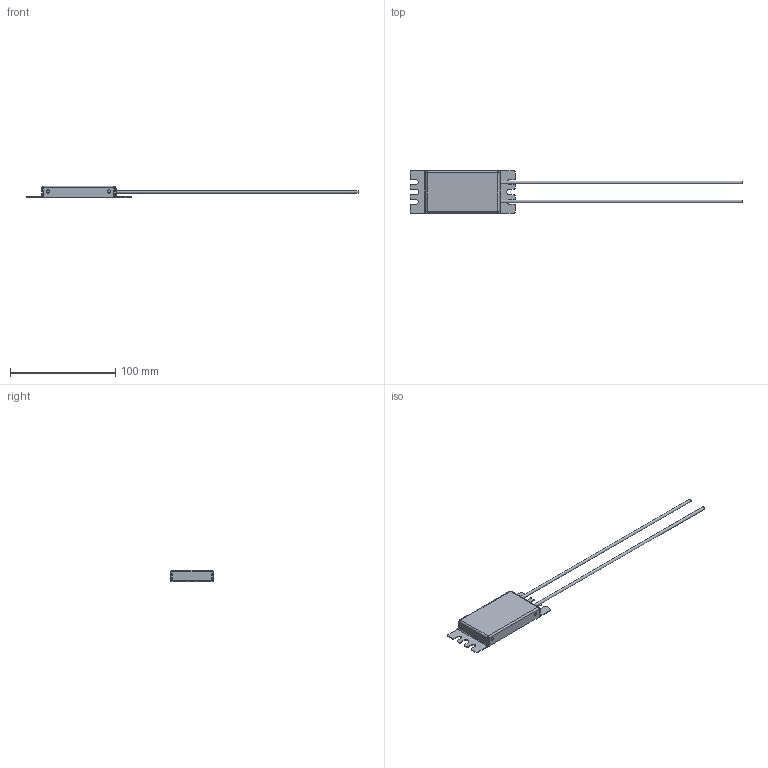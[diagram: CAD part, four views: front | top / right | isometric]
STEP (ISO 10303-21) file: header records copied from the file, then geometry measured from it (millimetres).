
FILE_DESCRIPTION(/* description */ (''),/* implementation_level */ '2;1');
FILE_NAME(/* name */ 'C:\_Vault\Dati\CATALOGO\RFX\RFX100-150-200-300\RFX100.stp',/* time_stamp */ '2014-03-25T21:01:14+01:00',/* author */ ('andreac'),/* organization */ (''),/* preprocessor_version */ 'ST-DEVELOPER v15.2',/* originating_system */ 'Autodesk Inventor 2014',/* authorisation */ '');
FILE_SCHEMA (('AUTOMOTIVE_DESIGN { 1 0 10303 214 3 1 1 }'));
Length unit declared in the file: millimetre
Products named in the file (1): RFX100
Bounding box: 315 x 40 x 11 mm (x, y, z)
Volume: 10490.6 mm3; surface area: 23900.8 mm2
Topology: 6 solids, 6 shells, 156 faces, 384 edges, 240 vertices
Faces by surface type: plane 102, cylinder 54
Full cylindrical faces by diameter (mm): 2.7 x2, 3 x8, 4.8 x2, 6 x2, 7 x2
Entity records: 4646 total; most frequent: DIRECTION 786, CARTESIAN_POINT 749, ORIENTED_EDGE 728, EDGE_CURVE 360, AXIS2_PLACEMENT_3D 269, LINE 248, VECTOR 248, VERTEX_POINT 232
